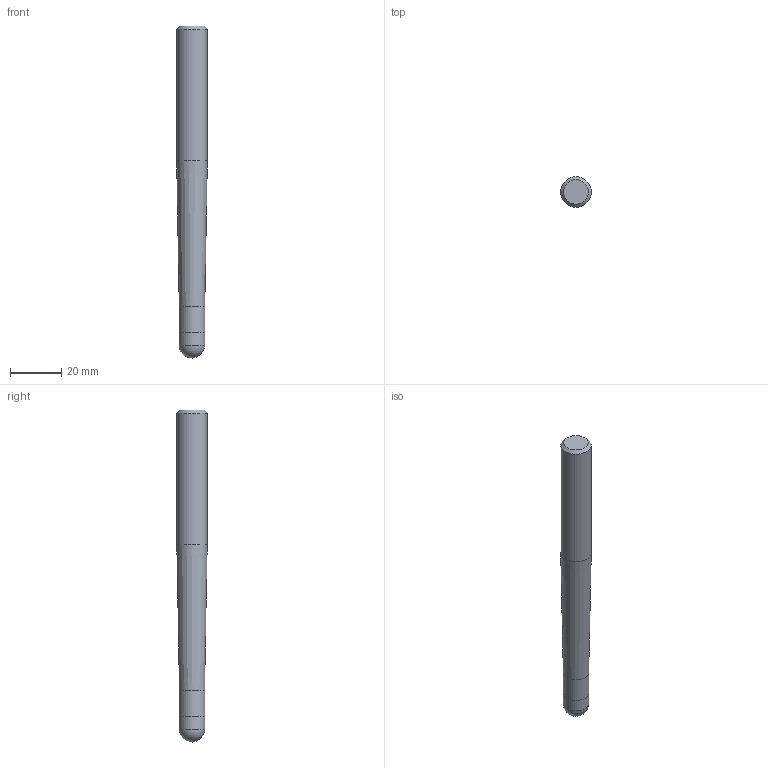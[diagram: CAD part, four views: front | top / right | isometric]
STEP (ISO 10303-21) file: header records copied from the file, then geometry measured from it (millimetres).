
FILE_DESCRIPTION((''),'2;1');
FILE_NAME('C:\Users\nsx150\AppData\Local\Temp\Mastercam 2021\SNAKH10GOD\TEMP.step','2021-10-21T13:34:08',(''),(''),'STEP Write','Mastercam 2021 ... CNC Software, Inc.','');
FILE_SCHEMA(('AUTOMOTIVE_DESIGN'));
Length unit declared in the file: millimetre
Products named in the file (1): None
Bounding box: 12 x 12 x 130 mm (x, y, z)
Volume: 12824.3 mm3; surface area: 4834.9 mm2
Topology: 2 solids, 2 shells, 9 faces, 14 edges, 8 vertices
Faces by surface type: plane 3, cylinder 3, cone 2, sphere 1
Full cylindrical faces by diameter (mm): 9.98 x1, 10 x1, 12 x1
Entity records: 211 total; most frequent: DIRECTION 36, CARTESIAN_POINT 25, AXIS2_PLACEMENT_3D 18, ORIENTED_EDGE 14, EDGE_LOOP 14, STYLED_ITEM 12, ADVANCED_FACE 9, FACE_BOUND 8
